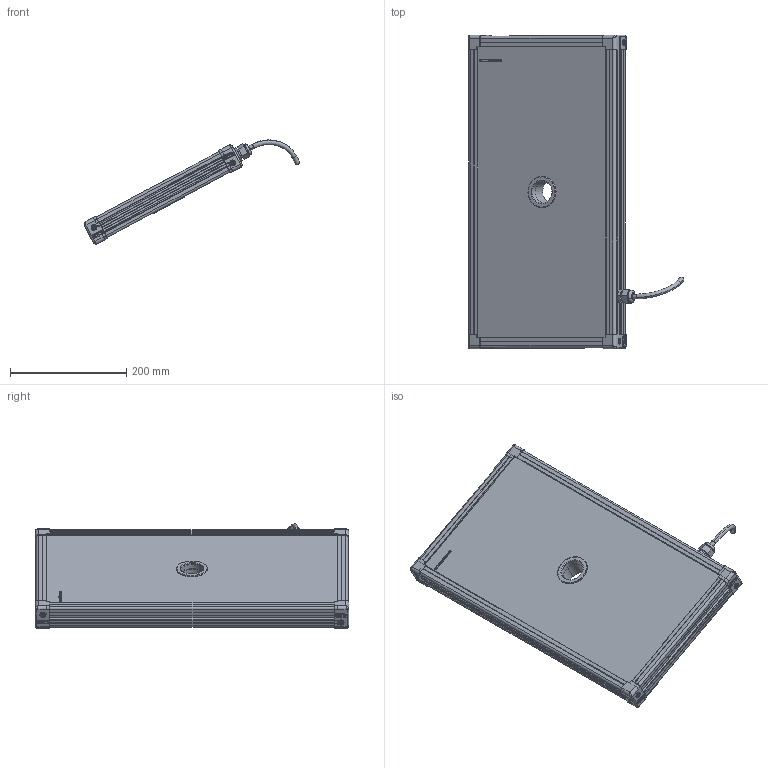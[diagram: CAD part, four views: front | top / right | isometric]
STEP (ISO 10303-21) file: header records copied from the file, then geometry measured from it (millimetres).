
FILE_DESCRIPTION (( 'STEP AP214' ), '1' );
FILE_NAME ('EFFI-FD-250-500-ZZZ-1M12P.STEP', '2021-06-21T08:24:30', ( '' ), ( '' ), 'SwSTEP 2.0', 'SolidWorks 2021', '' );
FILE_SCHEMA (( 'AUTOMOTIVE_DESIGN' ));
Length unit declared in the file: millimetre
Products named in the file (13): 000590; profile Y_PERCE; petite joue + vis; M12 power_AVEC CABLE D8.1; 001036; 001035; 000629; Pièce13^EFFI-FD-XXX-YYY-ZZZ (1 connecteur) M12POWER Ø39; EFFI-FD-250-500-ZZZ-1M12P; petite joue; assemblage Ø39; profile X_PERCE
Assembly tree (19 placements, depth 3):
  EFFI-FD-250-500-ZZZ-1M12P
    profile X_PERCE  x2
    profile Y_PERCE
    profile Y_PERCE
    Pièce13^EFFI-FD-XXX-YYY-ZZZ (1 connecteur) M12POWER Ø39
    petite joue + vis  x4
      petite joue
      000629
    M12 power_AVEC CABLE D8.1
    assemblage Ø39
      001036
      000590  x3
      001035
Bounding box: 370.8 x 539 x 179.05 mm (x, y, z)
Volume: 5330962.3 mm3; surface area: 581072.5 mm2
Topology: 22 solids, 25 shells, 3896 faces, 10381 edges, 6830 vertices
Faces by surface type: plane 2438, cylinder 691, bspline 591, cone 154, torus 22
Entity records: 54477 total; most frequent: CARTESIAN_POINT 22298, ORIENTED_EDGE 6752, DIRECTION 5429, EDGE_CURVE 3378, VECTOR 2403, LINE 2403, VERTEX_POINT 2231, AXIS2_PLACEMENT_3D 1513
